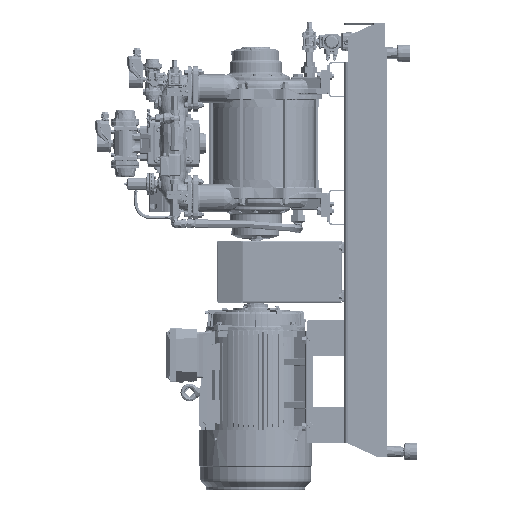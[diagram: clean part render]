
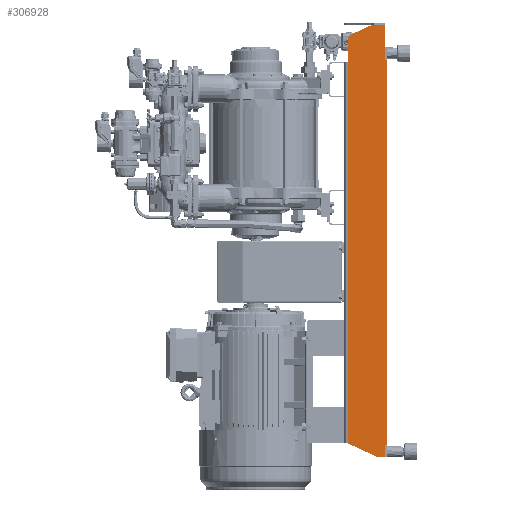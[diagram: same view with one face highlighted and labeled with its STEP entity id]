
A CAD part, left-side view. The second image highlights one B-rep face of the part: STEP entity #306928.
In plain terms, the highlighted planar face has unit normal (-1, 0, 0).
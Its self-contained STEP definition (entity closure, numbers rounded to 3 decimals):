
#23339=PLANE('',#328687);
#47486=LINE('',#492669,#68702);
#48159=LINE('',#494809,#69375);
#48160=LINE('',#494811,#69376);
#48161=LINE('',#494812,#69377);
#48162=LINE('',#494814,#69378);
#48163=LINE('',#494817,#69379);
#48164=LINE('',#494818,#69380);
#48165=LINE('',#494820,#69381);
#48166=LINE('',#494822,#69382);
#48167=LINE('',#494824,#69383);
#48168=LINE('',#494825,#69384);
#68702=VECTOR('',#367284,10.);
#69375=VECTOR('',#369111,10.);
#69376=VECTOR('',#369112,10.);
#69377=VECTOR('',#369113,10.);
#69378=VECTOR('',#369114,10.);
#69379=VECTOR('',#369117,10.);
#69380=VECTOR('',#369118,10.);
#69381=VECTOR('',#369119,10.);
#69382=VECTOR('',#369120,10.);
#69383=VECTOR('',#369121,10.);
#69384=VECTOR('',#369122,10.);
#88411=FACE_OUTER_BOUND('',#106919,.T.);
#106919=EDGE_LOOP('',(#228815,#228816,#228817,#228818,#228819,#228820,#228821,
#228822,#228823,#228824,#228825,#228826));
#124854=CIRCLE('',#328688,25.);
#142057=VERTEX_POINT('',#492666);
#142058=VERTEX_POINT('',#492668);
#142672=VERTEX_POINT('',#494786);
#142673=VERTEX_POINT('',#494793);
#142677=VERTEX_POINT('',#494807);
#142678=VERTEX_POINT('',#494808);
#142679=VERTEX_POINT('',#494810);
#142680=VERTEX_POINT('',#494813);
#142681=VERTEX_POINT('',#494815);
#142682=VERTEX_POINT('',#494819);
#142683=VERTEX_POINT('',#494821);
#142684=VERTEX_POINT('',#494823);
#173602=EDGE_CURVE('',#142057,#142058,#47486,.T.);
#174599=EDGE_CURVE('',#142677,#142678,#48159,.T.);
#174600=EDGE_CURVE('',#142677,#142679,#48160,.T.);
#174601=EDGE_CURVE('',#142058,#142679,#48161,.T.);
#174602=EDGE_CURVE('',#142680,#142057,#48162,.T.);
#174603=EDGE_CURVE('',#142681,#142680,#124854,.T.);
#174604=EDGE_CURVE('',#142672,#142681,#48163,.T.);
#174605=EDGE_CURVE('',#142672,#142673,#48164,.T.);
#174606=EDGE_CURVE('',#142682,#142673,#48165,.T.);
#174607=EDGE_CURVE('',#142683,#142682,#48166,.T.);
#174608=EDGE_CURVE('',#142683,#142684,#48167,.T.);
#174609=EDGE_CURVE('',#142684,#142678,#48168,.T.);
#228815=ORIENTED_EDGE('',*,*,#174599,.F.);
#228816=ORIENTED_EDGE('',*,*,#174600,.T.);
#228817=ORIENTED_EDGE('',*,*,#174601,.F.);
#228818=ORIENTED_EDGE('',*,*,#173602,.F.);
#228819=ORIENTED_EDGE('',*,*,#174602,.F.);
#228820=ORIENTED_EDGE('',*,*,#174603,.F.);
#228821=ORIENTED_EDGE('',*,*,#174604,.F.);
#228822=ORIENTED_EDGE('',*,*,#174605,.T.);
#228823=ORIENTED_EDGE('',*,*,#174606,.F.);
#228824=ORIENTED_EDGE('',*,*,#174607,.F.);
#228825=ORIENTED_EDGE('',*,*,#174608,.T.);
#228826=ORIENTED_EDGE('',*,*,#174609,.T.);
#306928=ADVANCED_FACE('',(#88411),#23339,.T.);
#328687=AXIS2_PLACEMENT_3D('',#494806,#369109,#369110);
#328688=AXIS2_PLACEMENT_3D('',#494816,#369115,#369116);
#367284=DIRECTION('',(0.,-1.,0.));
#369109=DIRECTION('center_axis',(-1.,0.,0.));
#369110=DIRECTION('ref_axis',(0.,0.,
-1.));
#369111=DIRECTION('',(0.,0.,-1.));
#369112=DIRECTION('',(0.,1.,0.));
#369113=DIRECTION('',(0.,0.,-1.));
#369114=DIRECTION('',(0.,-0.906,0.423));
#369115=DIRECTION('center_axis',(1.,0.,0.));
#369116=DIRECTION('ref_axis',(0.,0.843,0.537));
#369117=DIRECTION('',(0.,0.,1.));
#369118=DIRECTION('',(0.,0.,-1.));
#369119=DIRECTION('',(0.,0.906,0.423));
#369120=DIRECTION('',(0.,1.,0.));
#369121=DIRECTION('',(0.,0.,1.));
#369122=DIRECTION('',(0.,-1.,0.));
#492666=CARTESIAN_POINT('',(-254.,51.196,783.75));
#492668=CARTESIAN_POINT('',(-254.,6.,783.75));
#492669=CARTESIAN_POINT('',(-254.,51.196,783.75));
#494786=CARTESIAN_POINT('',(-254.,138.,653.75));
#494793=CARTESIAN_POINT('',(-254.,138.,-683.25));
#494806=CARTESIAN_POINT('Origin',(-254.,403.586,-140.));
#494807=CARTESIAN_POINT('',(-254.,0.,659.75));
#494808=CARTESIAN_POINT('',(-254.,0.,-689.25));
#494809=CARTESIAN_POINT('',(-254.,0.,-933.75));
#494810=CARTESIAN_POINT('',(-254.,6.,659.75));
#494811=CARTESIAN_POINT('',(-254.,201.793,659.75));
#494812=CARTESIAN_POINT('',(-254.,6.,783.75));
#494813=CARTESIAN_POINT('',(-254.,123.565,750.004));
#494814=CARTESIAN_POINT('',(-254.,138.,743.273));
#494815=CARTESIAN_POINT('',(-254.,138.,727.346));
#494816=CARTESIAN_POINT('Origin',(-254.,113.,727.346));
#494817=CARTESIAN_POINT('',(-254.,138.,653.75));
#494818=CARTESIAN_POINT('',(-254.,138.,-140.));
#494819=CARTESIAN_POINT('',(-254.,30.775,-733.25));
#494820=CARTESIAN_POINT('',(-254.,30.775,-733.25));
#494821=CARTESIAN_POINT('',(-254.,6.,-733.25));
#494822=CARTESIAN_POINT('',(-254.,0.,-733.25));
#494823=CARTESIAN_POINT('',(-254.,6.,-689.25));
#494824=CARTESIAN_POINT('',(-254.,6.,-440.375));
#494825=CARTESIAN_POINT('',(-254.,201.793,-689.25));
